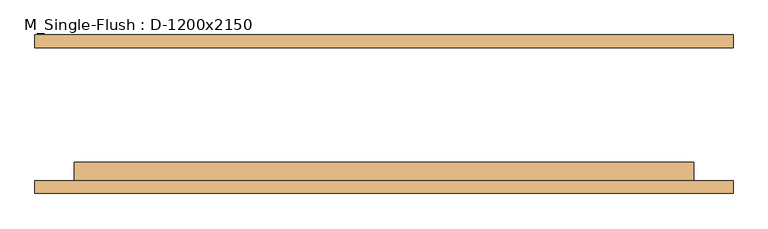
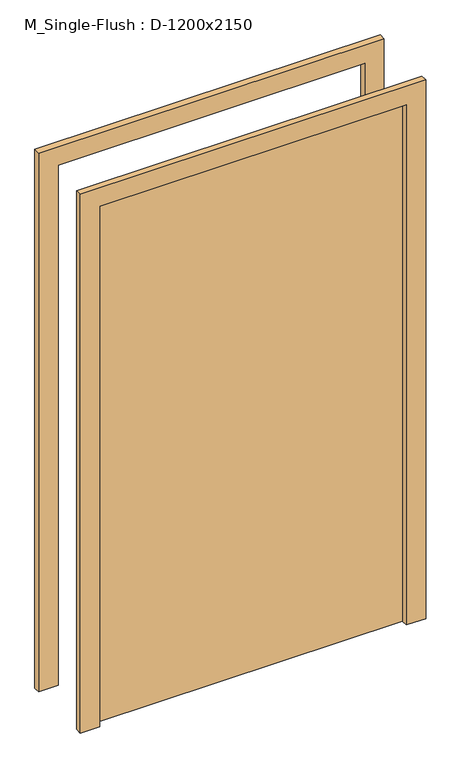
"""IFC4 building model written with IfcOpenShell, lengths in millimetres: door geometry, M_Single-Flush : D-1200x2150."""

import ifcopenshell
import ifcopenshell.guid

model = None  # the IFC model being written
_history = None  # IfcOwnerHistory: only IFC2X3 demands one
_inside = {}  # id of a spatial element -> (the spatial element, [elements in it])
_under = {}  # id of a project, library or spatial element -> (it, [spatial elements below it])
_declared = {}  # id of a project -> (the project, [libraries it declares])
_typed = {}  # id of a type object -> (the type object, [elements of that type])
_made_of = {}  # id of a material, layer set ... -> (it, [elements and type objects made of it])


def new_model(schema):
    """Start an empty IFC model of exactly this schema.

    Asked for "IFC4X3", IfcOpenShell would pick the latest addendum, in which some entities
    have other attributes; the version numbers below select the first issue.
    IFC2X3 requires an IfcOwnerHistory on every rooted entity: one is made here for all.
    """
    global model, _history
    if schema == "IFC4X3":
        model = ifcopenshell.file(schema_version=(4, 3, 0, 0))
    else:
        model = ifcopenshell.file(schema=schema)
    _inside.clear()
    _under.clear()
    _declared.clear()
    _typed.clear()
    _made_of.clear()
    _history = None
    if model.schema == "IFC2X3":
        org = make("IfcOrganization", Name="unknown")
        user = make(
            "IfcPersonAndOrganization",
            ThePerson=make("IfcPerson", FamilyName="unknown"),
            TheOrganization=org,
        )
        app = make(
            "IfcApplication",
            ApplicationDeveloper=org,
            Version="unknown",
            ApplicationFullName="unknown",
            ApplicationIdentifier="unknown",
        )
        _history = make(
            "IfcOwnerHistory",
            OwningUser=user,
            OwningApplication=app,
            ChangeAction="ADDED",
            CreationDate=0,
        )
    return model


def make(cls, **values):
    """One entity of the class cls with the attributes given. An attribute that is None is left unset."""
    return model.create_entity(
        cls, **{name: value for name, value in values.items() if value is not None}
    )


def rooted(cls, **values):
    """An entity with a GlobalId (a new one), such as an element, a storey or a relation."""
    return make(cls, GlobalId=ifcopenshell.guid.new(), OwnerHistory=_history, **values)


def si_unit(unit_type, name, prefix=None):
    """IfcSIUnit, for example si_unit("LENGTHUNIT", "METRE", prefix="MILLI")."""
    return make("IfcSIUnit", UnitType=unit_type, Prefix=prefix, Name=name)


def assignment(units):
    """IfcUnitAssignment: the units of a project."""
    return None if units is None else make("IfcUnitAssignment", Units=units)


def point(xyz):
    """IfcCartesianPoint."""
    return None if xyz is None else make("IfcCartesianPoint", Coordinates=xyz)


def direction(xyz):
    """IfcDirection."""
    return None if xyz is None else make("IfcDirection", DirectionRatios=xyz)


def frame(location, z_axis=None, x_axis=None):
    """IfcAxis2Placement3D, a coordinate frame: its origin and axes. An axis left out is left unset."""
    return make(
        "IfcAxis2Placement3D",
        Location=point(location),
        Axis=direction(z_axis),
        RefDirection=direction(x_axis),
    )


def origin():
    """The frame at (0, 0, 0) with its axes left unset."""
    return frame((0.0, 0.0, 0.0))


def origin_with_axes():
    """The frame at (0, 0, 0) with the z axis (0, 0, 1) and the x axis (1, 0, 0) written out."""
    return frame((0.0, 0.0, 0.0), z_axis=(0.0, 0.0, 1.0), x_axis=(1.0, 0.0, 0.0))


def place(relative_to, where):
    """IfcLocalPlacement: puts the frame where relative to a parent placement (None: the world)."""
    return make(
        "IfcLocalPlacement", PlacementRelTo=relative_to, RelativePlacement=where
    )


def context(
    kind, dimensions, precision=None, world=None, true_north=None, identifier=None
):
    """IfcGeometricRepresentationContext, for example the 3D "Model" context."""
    return make(
        "IfcGeometricRepresentationContext",
        ContextIdentifier=identifier,
        ContextType=kind,
        CoordinateSpaceDimension=dimensions,
        Precision=precision,
        WorldCoordinateSystem=world,
        TrueNorth=true_north,
    )


def project(units=None, contexts=None):
    """IfcProject with its units and contexts."""
    return rooted(
        "IfcProject",
        Name="project",
        RepresentationContexts=contexts,
        UnitsInContext=assignment(units),
    )


def spatial(cls, under=None, at=None, **own):
    """A site, building, storey or space (cls), placed at a placement, below another one or the project."""
    s = rooted(cls, ObjectPlacement=at, **own)
    if under is not None:
        _under.setdefault(under.id(), (under, []))[1].append(s)
    return s


def polyline(points):
    """IfcPolyline through the points."""
    return make("IfcPolyline", Points=[point(p) for p in points])


def outline(outer, holes=None, kind="AREA"):
    """IfcArbitraryClosedProfileDef: a profile drawn as a closed curve; with holes, ...WithVoids."""
    if holes is None:
        return make("IfcArbitraryClosedProfileDef", ProfileType=kind, OuterCurve=outer)
    return make(
        "IfcArbitraryProfileDefWithVoids",
        ProfileType=kind,
        OuterCurve=outer,
        InnerCurves=holes,
    )


def extrude(swept, where, along, depth):
    """IfcExtrudedAreaSolid: the profile swept, set in the frame where, extruded along a direction by depth."""
    return make(
        "IfcExtrudedAreaSolid",
        SweptArea=swept,
        Position=where,
        ExtrudedDirection=direction(along),
        Depth=depth,
    )


def shape(context_of_items, identifier, shape_type, items):
    """IfcShapeRepresentation: the items that make up one representation, for example the "Body"."""
    return make(
        "IfcShapeRepresentation",
        ContextOfItems=context_of_items,
        RepresentationIdentifier=identifier,
        RepresentationType=shape_type,
        Items=items,
    )


def source(mapping_origin, context_of_items, identifier, shape_type, items):
    """IfcRepresentationMap: a shape defined once, which mapped items show again and again."""
    return make(
        "IfcRepresentationMap",
        MappingOrigin=mapping_origin,
        MappedRepresentation=shape(context_of_items, identifier, shape_type, items),
    )


def transform(
    local_origin,
    x_axis=None,
    y_axis=None,
    z_axis=None,
    scale=None,
    scale2=None,
    scale3=None,
    uniform=True,
):
    """IfcCartesianTransformationOperator3D, or its non-uniform kind. x_axis, y_axis, z_axis: its Axis1, 2, 3."""
    if uniform:
        return make(
            "IfcCartesianTransformationOperator3D",
            Axis1=direction(x_axis),
            Axis2=direction(y_axis),
            LocalOrigin=point(local_origin),
            Scale=scale,
            Axis3=direction(z_axis),
        )
    return make(
        "IfcCartesianTransformationOperator3DnonUniform",
        Axis1=direction(x_axis),
        Axis2=direction(y_axis),
        LocalOrigin=point(local_origin),
        Scale=scale,
        Axis3=direction(z_axis),
        Scale2=scale2,
        Scale3=scale3,
    )


def mapped(mapping_source, mapping_target):
    """IfcMappedItem: shows the shape of a source again, moved by a transform."""
    return make(
        "IfcMappedItem", MappingSource=mapping_source, MappingTarget=mapping_target
    )


def made_of(thing, what):
    """Note that an element or type object is made of a material, layer set ...; save() writes the relation."""
    if what is not None:
        _made_of.setdefault(what.id(), (what, []))[1].append(thing)
    return thing


def element(
    cls,
    number,
    at=None,
    inside=None,
    cuts=None,
    type_object=None,
    material=None,
    context=None,
    identifier="Body",
    shape_type=None,
    held_by="IfcProductDefinitionShape",
    body=None,
    shapes=None,
    **own,
):
    """One element of the class cls, such as IfcWall. Its Tag is "e" and its number.

    at: its placement. inside: the storey or other place that contains it. cuts: it is an
    opening in that element (IfcRelVoidsElement). A single representation is given by context,
    identifier, shape_type and body (its items); several are given by shapes. held_by: the class
    of the entity that holds the representations. save() writes the other relations.
    """
    e = rooted(cls, Tag="e%d" % number, ObjectPlacement=at, **own)
    if body is not None:
        shapes = [shape(context, identifier, shape_type, body)]
    if shapes is not None:
        e.Representation = make(held_by, Representations=shapes)
    if inside is not None:
        _inside.setdefault(inside.id(), (inside, []))[1].append(e)
    if cuts is not None:
        rooted(
            "IfcRelVoidsElement", RelatingBuildingElement=cuts, RelatedOpeningElement=e
        )
    if type_object is not None:
        _typed.setdefault(type_object.id(), (type_object, []))[1].append(e)
    return made_of(e, material)


def aggregate(whole, parts):
    """IfcRelAggregates: a whole, such as a stair, and the parts it consists of."""
    return rooted("IfcRelAggregates", RelatingObject=whole, RelatedObjects=parts)


def save(model, path):
    """Write the relations noted so far, then the file.

    IfcRelAggregates (storeys below a building ...), IfcRelContainedInSpatialStructure (elements
    in a storey), IfcRelDefinesByType, IfcRelAssociatesMaterial and IfcRelDeclares: one each for
    every whole, place, type object, material and project.
    """
    for whole, parts in _under.values():
        aggregate(whole, parts)
    for where, things in _inside.values():
        rooted(
            "IfcRelContainedInSpatialStructure",
            RelatedElements=things,
            RelatingStructure=where,
        )
    for kind, things in _typed.values():
        rooted("IfcRelDefinesByType", RelatedObjects=things, RelatingType=kind)
    for what, things in _made_of.values():
        rooted("IfcRelAssociatesMaterial", RelatedObjects=things, RelatingMaterial=what)
    for by, libraries in _declared.values():
        rooted("IfcRelDeclares", RelatingContext=by, RelatedDefinitions=libraries)
    model.write(path)


def m_single_flush_d_1200x2150_9af03719(model_context):
    return source(origin(), model_context, "Body", "SweptSolid", [
        extrude(outline(polyline([(2226.0, -676.0), (0.0, -676.0), (0.0, -600.0), (2150.0, -600.0), (2150.0, 600.0), (0.0, 600.0), (0.0, 676.0), (2226.0, 676.0), (2226.0, -676.0)])), frame((0.0, -153.5, 0.0), z_axis=(0.0, 1.0, 0.0), x_axis=(0.0, 0.0, 1.0)), (0.0, 0.0, 1.0), 25.0),
        extrude(outline(polyline([(2226.0, 676.0), (2226.0, -676.0), (0.0, -676.0), (0.0, -600.0), (2150.0, -600.0), (2150.0, 600.0), (0.0, 600.0), (0.0, 676.0), (2226.0, 676.0)])), frame((0.0, 128.5, 0.0), z_axis=(0.0, 1.0, 0.0), x_axis=(0.0, 0.0, 1.0)), (0.0, 0.0, 1.0), 25.0),
        extrude(outline(polyline([(600.0, -93.5), (600.0, -128.5), (-600.0, -128.5), (-600.0, -93.5), (600.0, -93.5)])), origin_with_axes(), (0.0, 0.0, 1.0), 2150.0),
    ])


if __name__ == "__main__":
    model = new_model("IFC4")
    model_context = context("Model", 3, world=origin())
    ifc_project = project(units=[si_unit("LENGTHUNIT", "METRE", prefix="MILLI")], contexts=[model_context])
    site = spatial("IfcSite", under=ifc_project)
    building = spatial("IfcBuilding", under=site)
    placement = place(None, origin())
    m_single_flush_d_1200x2150_shape = m_single_flush_d_1200x2150_9af03719(model_context)
    element("IfcDoor", 1, ObjectType="M_Single-Flush : D-1200x2150", at=placement, inside=building, context=model_context, shape_type="MappedRepresentation", body=[
        mapped(m_single_flush_d_1200x2150_shape, transform((0.0, 0.0, 0.0), x_axis=(1.0, 0.0, 0.0), y_axis=(0.0, 1.0, 0.0), z_axis=(0.0, 0.0, 1.0))),
    ])
    save(model, "model.ifc")
